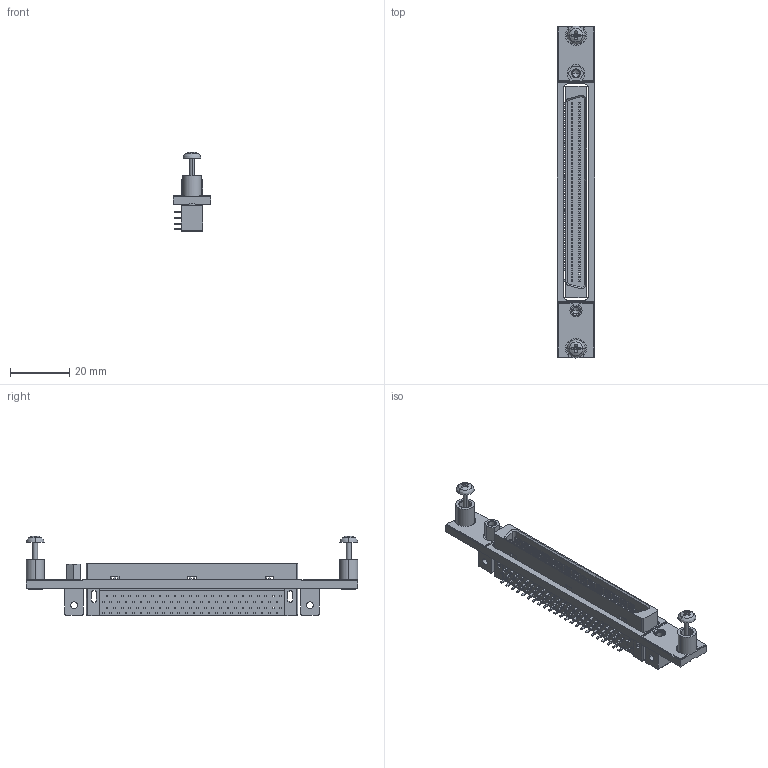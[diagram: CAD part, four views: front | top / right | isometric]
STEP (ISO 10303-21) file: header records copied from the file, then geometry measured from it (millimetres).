
FILE_DESCRIPTION((''),'2;1');
FILE_NAME('CU_NI-281X','2010-05-24T',('jjorden'),(''),'PRO/ENGINEER BY PARAMETRIC TECHNOLOGY CORPORATION, 2006080','PRO/ENGINEER BY PARAMETRIC TECHNOLOGY CORPORATION, 2006080','');
FILE_SCHEMA(('CONFIG_CONTROL_DESIGN'));
Products named in the file (1): CU_NI-281X
Bounding box: 12.45 x 111.63 x 26.85 mm (x, y, z)
Volume: 7684.9 mm3; surface area: 11678.8 mm2
Topology: 4 solids, 4 shells, 2398 faces, 6120 edges, 3906 vertices
Faces by surface type: plane 2080, cylinder 264, cone 32, bspline 12, torus 6, sphere 4
Entity records: 71696 total; most frequent: CARTESIAN_POINT 12864, ORIENTED_EDGE 12216, DIRECTION 11500, EDGE_CURVE 6108, VECTOR 5472, LINE 5472, VERTEX_POINT 3944, AXIS2_PLACEMENT_3D 3014
